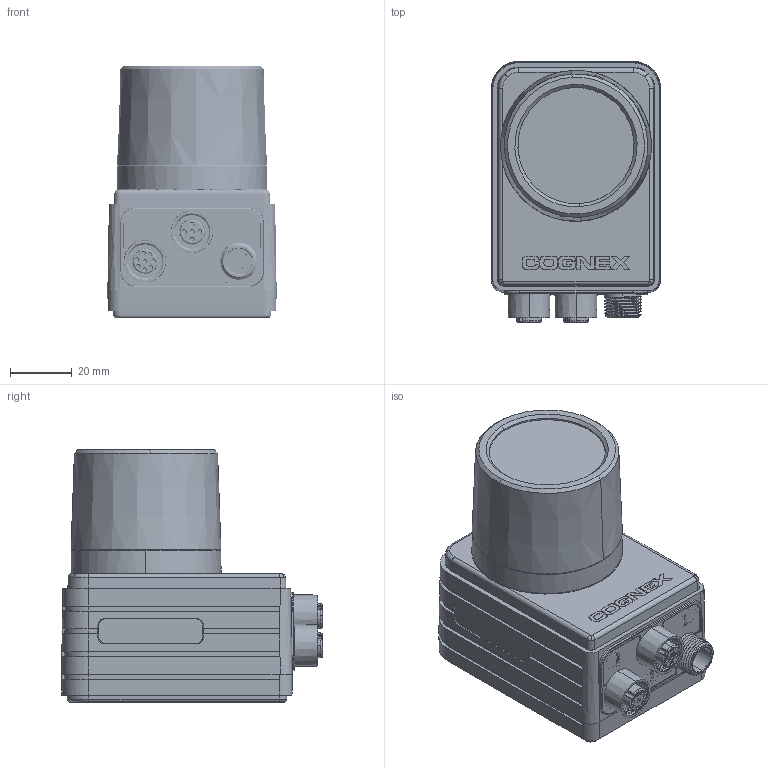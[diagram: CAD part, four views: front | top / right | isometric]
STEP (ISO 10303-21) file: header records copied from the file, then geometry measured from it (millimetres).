
FILE_DESCRIPTION (( 'STEP AP214' ), '1' );
FILE_NAME ('C-MOUNT WITH BRACKET.STEP', '2011-11-14T18:50:01', ( '' ), ( '' ), 'SwSTEP 2.0', 'SolidWorks 2011', '' );
FILE_SCHEMA (( 'AUTOMOTIVE_DESIGN' ));
Length unit declared in the file: millimetre
Products named in the file (5): Assy, Main, Rogue solid 1_1; socket head cap screw_am 1_B18.3.1M - 2.5 x 0.45 x 6 Hex SHCS -- 6NHX; Assy, C-Mount Lens Cover, Rogue_1; Bracket, Mounting, Single 2, Rogue_1; C-MOUNT WITH BRACKET
Assembly tree (7 placements, depth 2):
  C-MOUNT WITH BRACKET
    Assy, Main, Rogue solid 1_1
    socket head cap screw_am 1_B18.3.1M - 2.5 x 0.45 x 6 Hex SHCS -- 6NHX  x4
    Assy, C-Mount Lens Cover, Rogue_1
    Bracket, Mounting, Single 2, Rogue_1
Bounding box: 55 x 84.81 x 81.9 mm (x, y, z)
Volume: 178513.5 mm3; surface area: 77008 mm2
Topology: 12 solids, 31 shells, 4888 faces, 12176 edges, 7838 vertices
Faces by surface type: plane 2917, bspline 910, cylinder 697, cone 355, torus 9
Entity records: 259050 total; most frequent: CARTESIAN_POINT 99512, ORIENTED_EDGE 23930, DIRECTION 17949, EDGE_CURVE 11965, VECTOR 8083, LINE 8083, VERTEX_POINT 7739, EDGE_LOOP 5388
